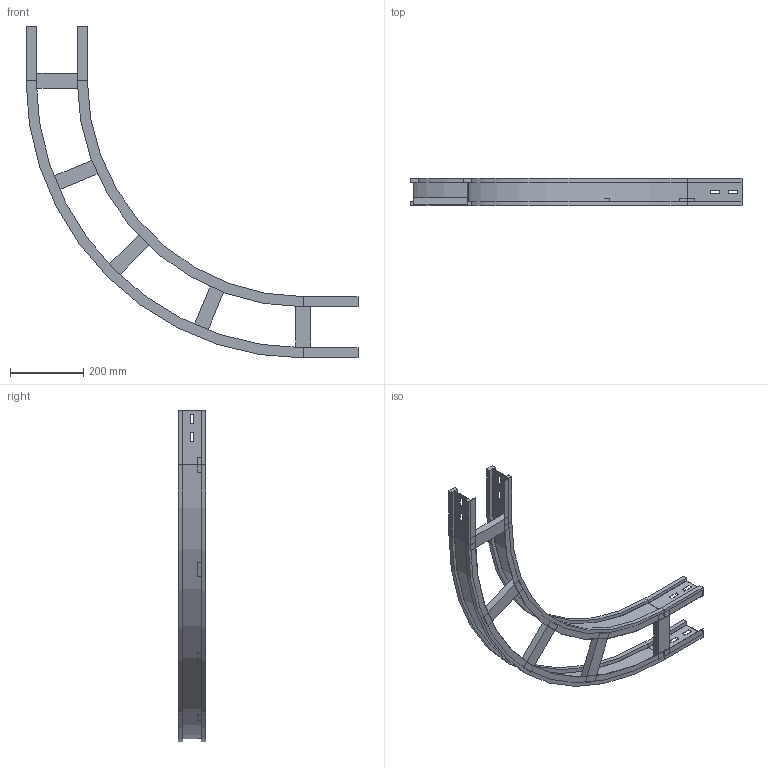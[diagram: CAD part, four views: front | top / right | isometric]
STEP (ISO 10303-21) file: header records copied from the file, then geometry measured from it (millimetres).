
FILE_DESCRIPTION (( 'STEP AP214' ), '1' );
FILE_NAME ('10S6C150.step', '2025-02-21T16:11:40', ( '' ), ( '' ), 'SwSTEP 2.0', 'SolidWorks 2023', '' );
FILE_SCHEMA (( 'AUTOMOTIVE_DESIGN' ));
Length unit declared in the file: millimetre
Products named in the file (4): 10S6C150; LONGH.ESTERNO 90°_H75_R600+150; TRAVERSINO_150; LONGH.INTERNO 90°_H75_R600
Assembly tree (7 placements, depth 2):
  10S6C150
    LONGH.INTERNO 90°_H75_R600
    LONGH.ESTERNO 90°_H75_R600+150
    TRAVERSINO_150  x5
Bounding box: 909 x 75 x 909 mm (x, y, z)
Volume: 1933213.4 mm3; surface area: 768204 mm2
Topology: 7 solids, 7 shells, 138 faces, 324 edges, 200 vertices
Faces by surface type: plane 126, cylinder 12
Entity records: 3405 total; most frequent: CARTESIAN_POINT 568, ORIENTED_EDGE 552, DIRECTION 548, EDGE_CURVE 276, LINE 252, VECTOR 252, VERTEX_POINT 168, AXIS2_PLACEMENT_3D 148
